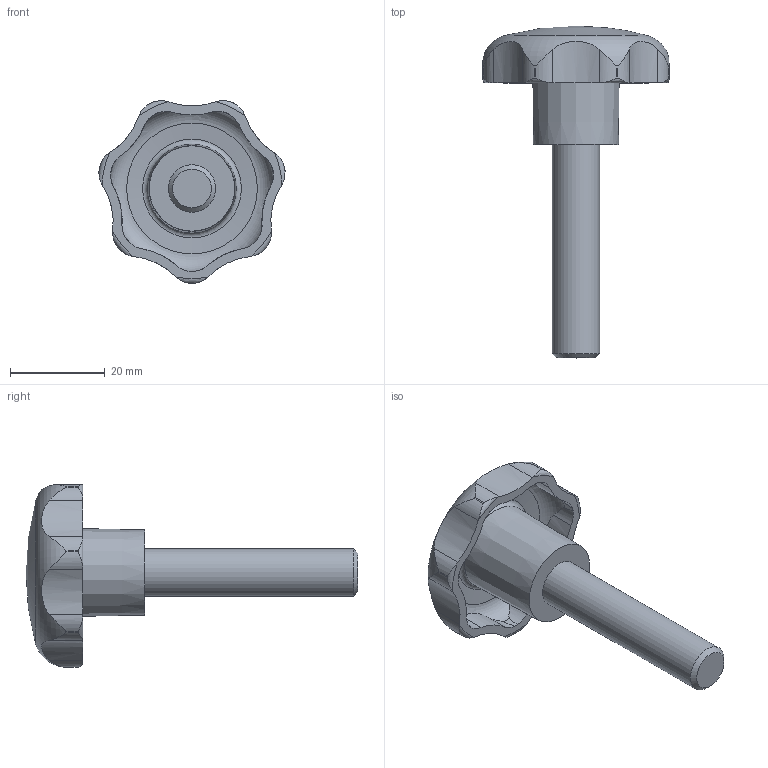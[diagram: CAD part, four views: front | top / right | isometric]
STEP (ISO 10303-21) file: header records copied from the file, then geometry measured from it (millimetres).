
FILE_DESCRIPTION( ( 'STEP AP203' ), '1' );
FILE_NAME( 'C:/Temp/Ganter_Step_05_03_2020/data/2_2/gn_6336_4/gn_6336_4_st/Star knob GN 6336.4-ST-40-M10-45.stp', '2020-03-05T12:07:34', ( 'License CC BY-ND 4.0' ), ( 'CADENAS' ), ' ', 'PARTsolutions', ' ' );
FILE_SCHEMA( ( 'CONFIG_CONTROL_DESIGN' ) );
Length unit declared in the file: millimetre
Products named in the file (1): _Star knob GN 6336.4-ST-40-M10-45
Bounding box: 39.24 x 70 x 38.52 mm (x, y, z)
Volume: 14333.8 mm3; surface area: 6291.2 mm2
Topology: 1 solids, 1 shells, 74 faces, 209 edges, 138 vertices
Faces by surface type: cylinder 43, torus 17, cone 10, plane 3, sphere 1
Full cylindrical faces by diameter (mm): 10 x1
Entity records: 3288 total; most frequent: CARTESIAN_POINT 1437, ORIENTED_EDGE 394, DIRECTION 362, EDGE_CURVE 197, AXIS2_PLACEMENT_3D 160, VERTEX_POINT 135, CIRCLE 85, EDGE_LOOP 83
